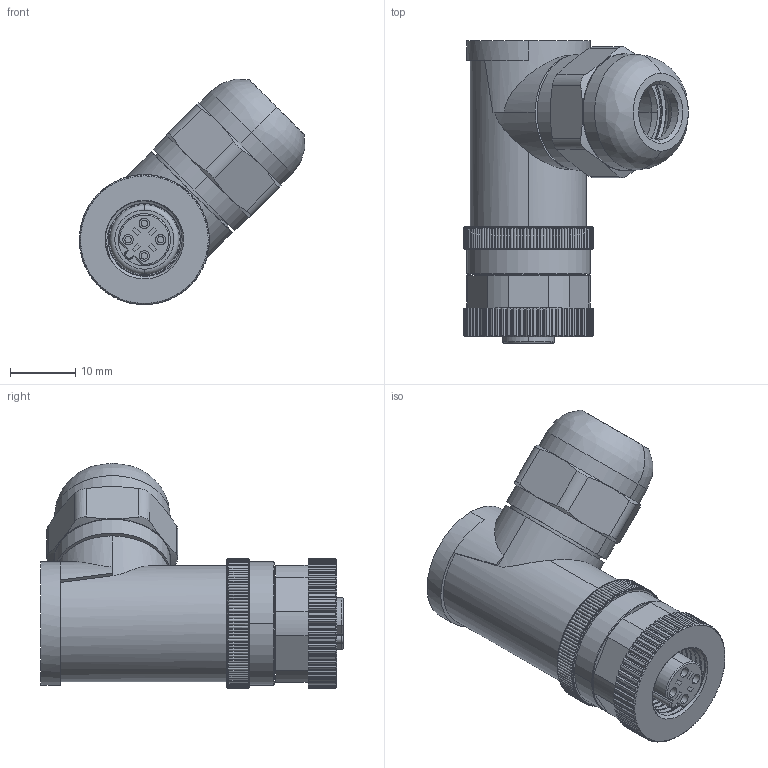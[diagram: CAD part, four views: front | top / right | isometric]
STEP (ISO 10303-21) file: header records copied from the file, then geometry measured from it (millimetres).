
FILE_DESCRIPTION((''),'2;1');
FILE_NAME('XC-M12P-RWK-PG9','2025-06-23T15:39:09',('lyj'),(''),'CREO PARAMETRIC BY PTC INC, 2019010','CREO PARAMETRIC BY PTC INC, 2019010','');
FILE_SCHEMA(('CONFIG_CONTROL_DESIGN'));
Length unit declared in the file: millimetre
Products named in the file (1): XC-M12P-RWK-PG9
Bounding box: 34.66 x 46.5 x 34.66 mm (x, y, z)
Volume: 10374.7 mm3; surface area: 13482.3 mm2
Topology: 1 solids, 11 shells, 1750 faces, 4610 edges, 2939 vertices
Faces by surface type: cylinder 832, plane 427, cone 373, bspline 61, extrusion 29, torus 28
Entity records: 85865 total; most frequent: CARTESIAN_POINT 44395, ORIENTED_EDGE 9217, DIRECTION 7988, EDGE_CURVE 4610, AXIS2_PLACEMENT_3D 3166, VERTEX_POINT 2939, EDGE_LOOP 1846, FACE_OUTER_BOUND 1750
